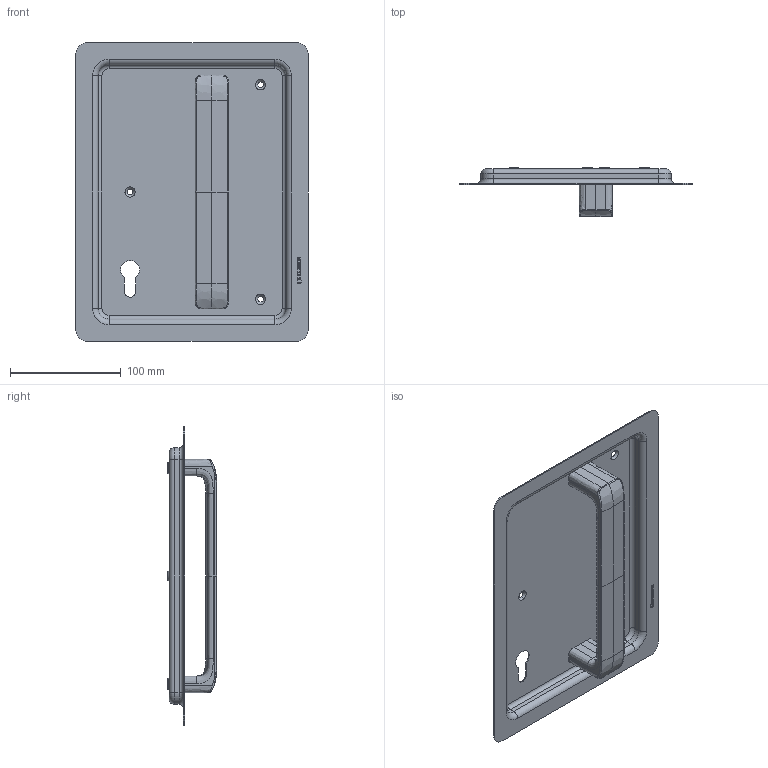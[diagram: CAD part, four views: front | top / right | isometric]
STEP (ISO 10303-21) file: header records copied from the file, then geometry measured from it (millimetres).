
FILE_DESCRIPTION(/* description */ (''),/* implementation_level */ '2;1');
FILE_NAME(/* name */ 'C:\ADSK_DMS_WS\Designs\Vorschläge\Loc Schalen\Heusser Muschel\Heusser-Muschel mit D6\S6.13.D6.392R..stp',/* time_stamp */ '2025-04-10T15:14:39+02:00',/* author */ ('gm'),/* organization */ (''),/* preprocessor_version */ 'ST-DEVELOPER v17.2',/* originating_system */ 'Autodesk Inventor 2019',/* authorisation */ '');
FILE_SCHEMA (('AUTOMOTIVE_DESIGN { 1 0 10303 214 3 1 1 }'));
Length unit declared in the file: millimetre
Products named in the file (4): S6.13.D6.392R.; Schale S6.13.R.D6ipt; D6; M5x10 zu D6
Assembly tree (6 placements, depth 2):
  S6.13.D6.392R.
    Schale S6.13.R.D6ipt
    D6
    M5x10 zu D6  x4
Bounding box: 210 x 44.5 x 270 mm (x, y, z)
Volume: 145524.5 mm3; surface area: 150586.7 mm2
Topology: 6 solids, 6 shells, 389 faces, 998 edges, 640 vertices
Faces by surface type: plane 127, bspline 98, cylinder 94, cone 50, torus 20
Full cylindrical faces by diameter (mm): 4.134 x4, 5 x4, 5.5 x4, 9 x4
Entity records: 13634 total; most frequent: CARTESIAN_POINT 6474, ORIENTED_EDGE 1572, DIRECTION 1185, EDGE_CURVE 786, VERTEX_POINT 505, LINE 425, VECTOR 425, AXIS2_PLACEMENT_3D 380
